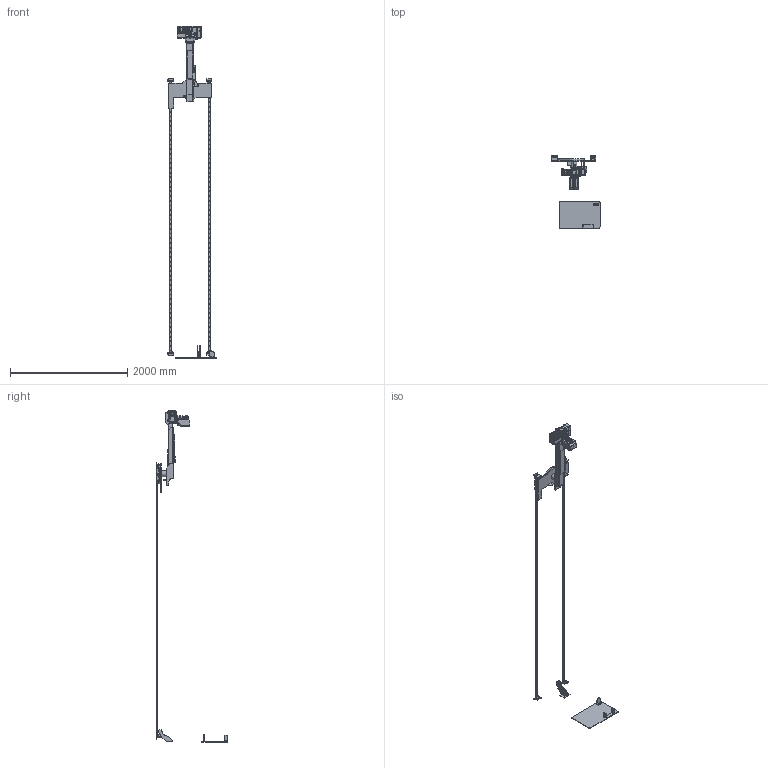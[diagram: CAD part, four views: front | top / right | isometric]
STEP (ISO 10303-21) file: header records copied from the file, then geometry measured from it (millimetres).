
FILE_DESCRIPTION (( 'STEP AP203' ), '1' );
FILE_NAME ('KSV_00_000_000_3_P_Bomlar-kapalý.STEP', '2026-02-12T11:46:18', ( '' ), ( '' ), 'SwSTEP 2.0', 'SolidWorks 2023', '' );
FILE_SCHEMA (( 'CONFIG_CONTROL_DESIGN' ));
Length unit declared in the file: millimetre
Products named in the file (4): KSV_00_000_000_3_P_Bomlar-kapalı; KSV_10_000_000_4_P; KSV_05_000_100_3_P; KSV_15_000_000_2_P
Assembly tree (3 placements, depth 2):
  KSV_00_000_000_3_P_Bomlar-kapalı
    KSV_05_000_100_3_P
    KSV_10_000_000_4_P
    KSV_15_000_000_2_P
Bounding box: 820.68 x 1225 x 5669 mm (x, y, z)
Volume: 20330003.3 mm3; surface area: 6939369.8 mm2
Topology: 31 solids, 85 shells, 6954 faces, 18178 edges, 11359 vertices
Faces by surface type: cylinder 2942, plane 2587, bspline 1084, cone 299, torus 42
Entity records: 293949 total; most frequent: CARTESIAN_POINT 135370, ORIENTED_EDGE 35623, DIRECTION 28750, EDGE_CURVE 17909, VERTEX_POINT 11360, AXIS2_PLACEMENT_3D 10218, VECTOR 8314, LINE 8314
